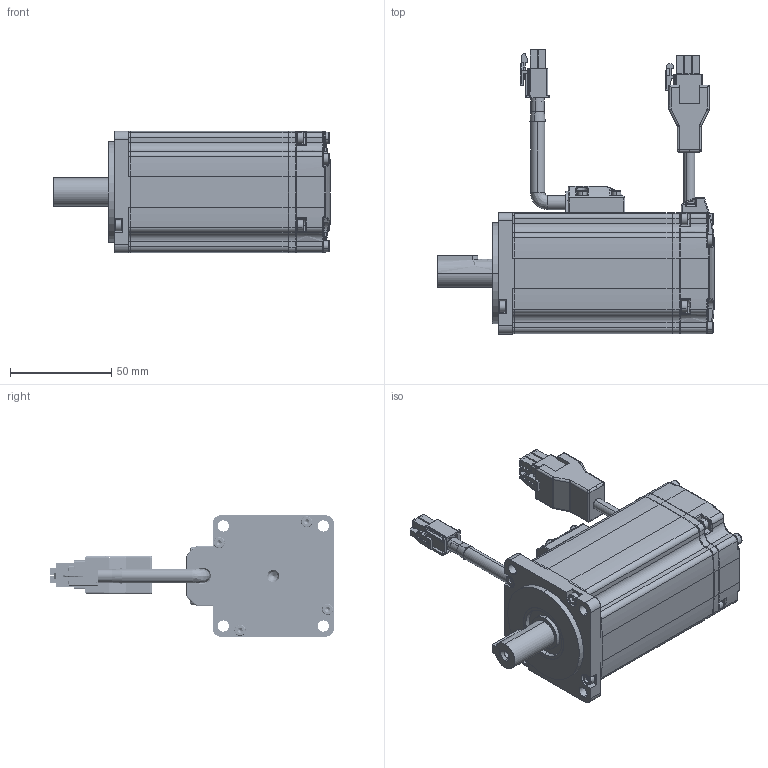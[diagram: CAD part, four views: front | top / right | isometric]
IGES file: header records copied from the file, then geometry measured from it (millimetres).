
Start section: SolidWorks IGES file using analytic representation for surfaces
Bounding box: 137 x 140.49 x 60 mm (x, y, z)
Surface area: 97271.9 mm2 (no closed solid volume)
Topology: 0 solids, 0 shells, 2423 faces, 25676 edges, 25566 vertices
Faces by surface type: bspline 1425, revolution 998
